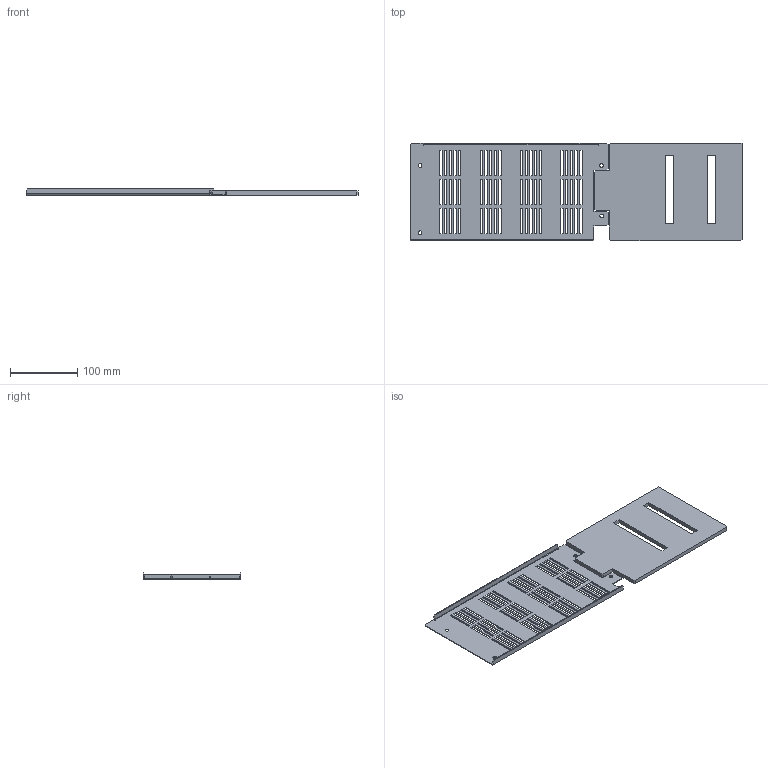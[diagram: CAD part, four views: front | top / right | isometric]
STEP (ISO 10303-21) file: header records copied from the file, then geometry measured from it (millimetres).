
FILE_DESCRIPTION(('CAx-IF Rec.Pracs.---Model Styling and Organization---1.2---2011-12-15','CAx-IF Rec.Pracs.---Geometric and Assembly Validation Properties---4.1---2014-06-16','CAx-IF Rec.Pracs.---PMI Polyline Presentation---2.0---2013-05-24'),'2;1');
FILE_NAME('R5M2W3MRA3B.stp','2021-05-05T13:04:42+03:00',(''),(''),'STEP Interface 4.4 by CT CoreTechnologie','3D_Evolution4.4 by CT CoreTechnologie','');
FILE_SCHEMA(('AUTOMOTIVE_DESIGN { 1 0 10303 214 1 1 1 1 }'));
Length unit declared in the file: millimetre
Products named in the file (3): R5M2W3MRA3B; RB.1385.00.00.0_-00; RB.1384.00.00.0_-00
Assembly tree (2 placements, depth 2):
  R5M2W3MRA3B
    RB.1385.00.00.0_-00
    RB.1384.00.00.0_-00
Bounding box: 493.5 x 145 x 9 mm (x, y, z)
Surface area: 141642 mm2 (no closed solid volume)
Topology: 0 solids, 2 shells, 312 faces, 916 edges, 608 vertices
Faces by surface type: plane 300, cylinder 12
Entity records: 10542 total; most frequent: CARTESIAN_POINT 1839, ORIENTED_EDGE 1832, DIRECTION 1570, EDGE_CURVE 916, VECTOR 892, LINE 892, VERTEX_POINT 608, EDGE_LOOP 444
